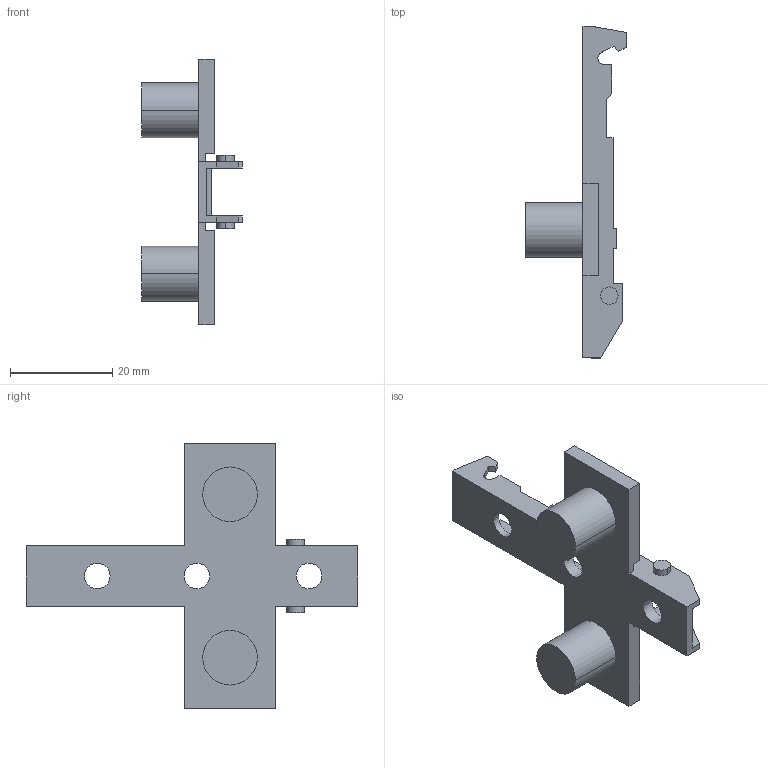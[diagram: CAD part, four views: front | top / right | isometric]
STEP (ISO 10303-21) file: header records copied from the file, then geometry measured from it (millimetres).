
FILE_DESCRIPTION (( 'STEP AP214' ), '1' );
FILE_NAME ('Eco Kreuzmontageplatte LR37_32_Dübel 10mm_H-02.step', '2010-11-18T10:07:00', ( 'grass' ), ( '' ), 'SwSTEP 2.0', 'SolidWorks 2010', '' );
FILE_SCHEMA (( 'AUTOMOTIVE_DESIGN' ));
Length unit declared in the file: millimetre
Products named in the file (1): Eco Kreuzmontageplatte LR37_32_Dübel 10mm_H-02
Bounding box: 19.7 x 65 x 52 mm (x, y, z)
Volume: 5807.3 mm3; surface area: 5591.9 mm2
Topology: 1 solids, 1 shells, 101 faces, 269 edges, 176 vertices
Faces by surface type: plane 73, cylinder 22, cone 6
Entity records: 3159 total; most frequent: CARTESIAN_POINT 547, ORIENTED_EDGE 538, DIRECTION 523, EDGE_CURVE 269, VECTOR 219, LINE 219, VERTEX_POINT 176, AXIS2_PLACEMENT_3D 152
